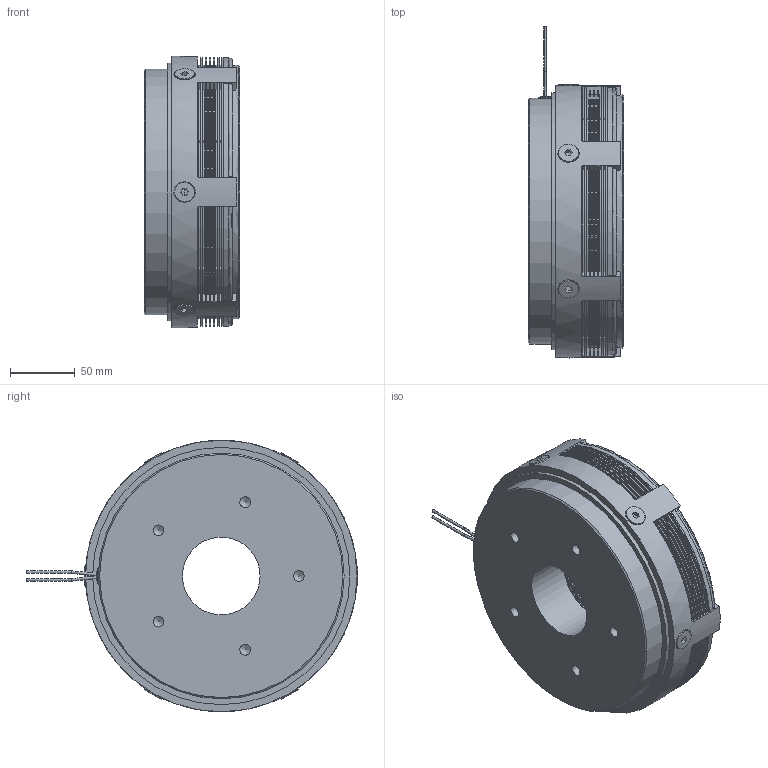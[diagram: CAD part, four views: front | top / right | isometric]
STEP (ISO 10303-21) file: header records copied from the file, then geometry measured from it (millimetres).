
FILE_DESCRIPTION(/* description */ (''),/* implementation_level */ '2;1');
FILE_NAME(/* name */ 'X:\INVENTOR\DISEGNI\05_Friz_Elettmag-Lam\05_06 EC_F\05_06_210_01 EC_F210\05_06_210_01 EC_F210@STEP.stp',/* time_stamp */ '2023-03-10T14:43:44+01:00',/* author */ ('alessio'),/* organization */ (''),/* preprocessor_version */ 'ST-DEVELOPER v18.1',/* originating_system */ 'Autodesk Inventor 2021',/* authorisation */ '');
FILE_SCHEMA (('AUTOMOTIVE_DESIGN { 1 0 10303 214 3 1 1 }'));
Products named in the file (1): 05_06_210_01 EC_F210
Bounding box: 73.5 x 256.71 x 210 mm (x, y, z)
Volume: 1819600.5 mm3; surface area: 611590.2 mm2
Topology: 1 solids, 14 shells, 2244 faces, 7169 edges, 4731 vertices
Faces by surface type: cylinder 1788, plane 406, cone 38, torus 7, bspline 5
Full cylindrical faces by diameter (mm): 3 x2, 6.647 x6, 8 x6, 8.376 x5, 8.5 x6, 15.24 x6, 60 x2, 100 x1, 142 x1, 144 x1, 168 x1, 170 x1, 190 x1, 196 x1, 199 x1, 210 x1
Entity records: 85154 total; most frequent: CARTESIAN_POINT 15674, DIRECTION 15401, ORIENTED_EDGE 14316, EDGE_CURVE 7158, AXIS2_PLACEMENT_3D 6171, VERTEX_POINT 4731, CIRCLE 3875, LINE 3059
